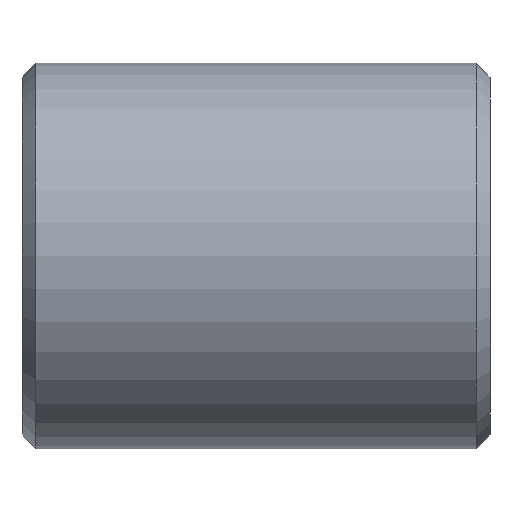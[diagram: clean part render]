
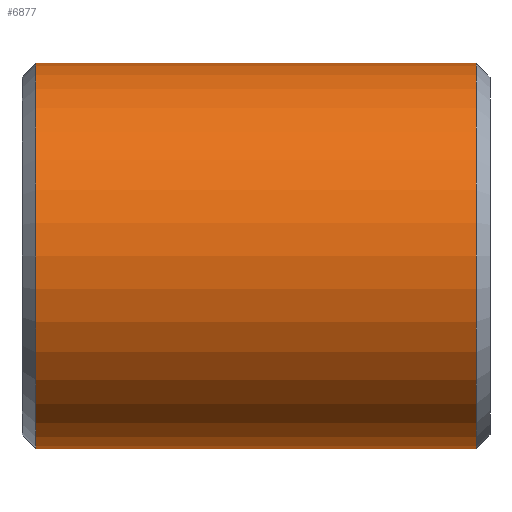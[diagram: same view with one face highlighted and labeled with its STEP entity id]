
A CAD part, front view. The second image highlights one B-rep face of the part: STEP entity #6877.
In plain terms, the highlighted cylindrical face has radius 7 mm (diameter 14 mm), a partial arc.
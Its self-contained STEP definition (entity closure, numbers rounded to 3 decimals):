
#135 = VERTEX_POINT ( 'NONE', #1192 ) ;
#184 = CARTESIAN_POINT ( 'NONE',  ( 0.5, 0., -7. ) ) ;
#208 = VECTOR ( 'NONE', #2434, 1000. ) ;
#329 = CARTESIAN_POINT ( 'NONE',  ( 17., 0., 0. ) ) ;
#482 = DIRECTION ( 'NONE',  ( 1., 0., 0. ) ) ;
#684 = ORIENTED_EDGE ( 'NONE', *, *, #809, .T. ) ;
#809 = EDGE_CURVE ( 'NONE', #9641, #135, #3955, .T. ) ;
#1192 = CARTESIAN_POINT ( 'NONE',  ( 16.5, 0., 7. ) ) ;
#2187 = ORIENTED_EDGE ( 'NONE', *, *, #8573, .T. ) ;
#2434 = DIRECTION ( 'NONE',  ( -1., 0., 0. ) ) ;
#2610 = ORIENTED_EDGE ( 'NONE', *, *, #8992, .T. ) ;
#2911 = DIRECTION ( 'NONE',  ( -1., 0., 0. ) ) ;
#3150 = CARTESIAN_POINT ( 'NONE',  ( 0.5, 0., 7. ) ) ;
#3242 = AXIS2_PLACEMENT_3D ( 'NONE', #329, #2911, #3769 ) ;
#3595 = DIRECTION ( 'NONE',  ( -1., 0., 0. ) ) ;
#3769 = DIRECTION ( 'NONE',  ( 0., 0., 1. ) ) ;
#3955 = CIRCLE ( 'NONE', #10355, 7. ) ;
#4018 = CARTESIAN_POINT ( 'NONE',  ( 17., 0., 7. ) ) ;
#4153 = DIRECTION ( 'NONE',  ( 0., 0., -1. ) ) ;
#4954 = CARTESIAN_POINT ( 'NONE',  ( 0.5, 0., 0. ) ) ;
#6859 = EDGE_LOOP ( 'NONE', ( #8145, #684, #2610, #2187 ) ) ;
#6877 = ADVANCED_FACE ( 'NONE', ( #7321 ), #10789, .T. ) ;
#7321 = FACE_OUTER_BOUND ( 'NONE', #6859, .T. ) ;
#7512 = DIRECTION ( 'NONE',  ( -1., 0., 0. ) ) ;
#7627 = CIRCLE ( 'NONE', #9086, 7. ) ;
#7980 = VECTOR ( 'NONE', #7512, 1000. ) ;
#8145 = ORIENTED_EDGE ( 'NONE', *, *, #9702, .F. ) ;
#8266 = CARTESIAN_POINT ( 'NONE',  ( 17., 0., -7. ) ) ;
#8467 = LINE ( 'NONE', #4018, #7980 ) ;
#8573 = EDGE_CURVE ( 'NONE', #11013, #10479, #7627, .T. ) ;
#8692 = CARTESIAN_POINT ( 'NONE',  ( 16.5, 0., 0. ) ) ;
#8743 = DIRECTION ( 'NONE',  ( 0., 0., -1. ) ) ;
#8992 = EDGE_CURVE ( 'NONE', #135, #11013, #8467, .T. ) ;
#9086 = AXIS2_PLACEMENT_3D ( 'NONE', #4954, #482, #4153 ) ;
#9641 = VERTEX_POINT ( 'NONE', #11120 ) ;
#9702 = EDGE_CURVE ( 'NONE', #9641, #10479, #10839, .T. ) ;
#10355 = AXIS2_PLACEMENT_3D ( 'NONE', #8692, #3595, #8743 ) ;
#10479 = VERTEX_POINT ( 'NONE', #184 ) ;
#10789 = CYLINDRICAL_SURFACE ( 'NONE', #3242, 7. ) ;
#10839 = LINE ( 'NONE', #8266, #208 ) ;
#11013 = VERTEX_POINT ( 'NONE', #3150 ) ;
#11120 = CARTESIAN_POINT ( 'NONE',  ( 16.5, 0., -7. ) ) ;
